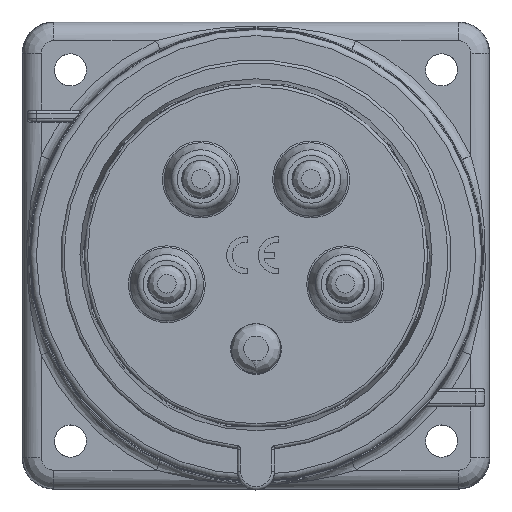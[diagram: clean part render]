
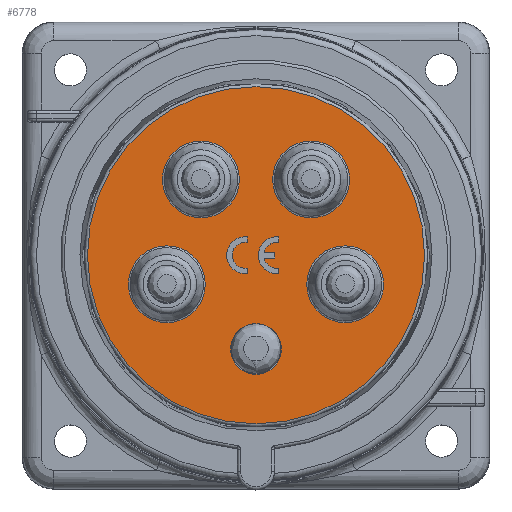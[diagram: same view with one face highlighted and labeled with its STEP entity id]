
A CAD part, top view. The second image highlights one B-rep face of the part: STEP entity #6778.
In plain terms, the highlighted planar face has unit normal (0, 0, 1).
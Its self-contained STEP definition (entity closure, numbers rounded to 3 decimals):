
#1308=FACE_BOUND('',#16651,.T.);
#1309=FACE_BOUND('',#16652,.T.);
#1310=FACE_BOUND('',#16653,.T.);
#1311=FACE_BOUND('',#16654,.T.);
#1312=FACE_BOUND('',#16655,.T.);
#1313=FACE_BOUND('',#16656,.T.);
#1314=FACE_BOUND('',#16657,.T.);
#1315=FACE_BOUND('',#16658,.T.);
#6778=ADVANCED_FACE('',(#1308,#1309,#1310,#1311,#1312,#1313,#1314,#1315),
#9088,.F.);
#9088=PLANE('',#75443);
#16651=EDGE_LOOP('',(#44448,#44449,#44450,#44451));
#16652=EDGE_LOOP('',(#44452,#44453,#44454,#44455,#44456,#44457,#44458,#44459));
#16653=EDGE_LOOP('',(#44460));
#16654=EDGE_LOOP('',(#44461));
#16655=EDGE_LOOP('',(#44462));
#16656=EDGE_LOOP('',(#44463));
#16657=EDGE_LOOP('',(#44464));
#16658=EDGE_LOOP('',(#44465));
#21707=LINE('',#165812,#25882);
#21708=LINE('',#165817,#25883);
#21709=LINE('',#165820,#25884);
#21710=LINE('',#165825,#25885);
#21711=LINE('',#165829,#25886);
#21712=LINE('',#165831,#25887);
#21713=LINE('',#165833,#25888);
#25882=VECTOR('',#88773,1.);
#25883=VECTOR('',#88776,1.);
#25884=VECTOR('',#88779,1.);
#25885=VECTOR('',#88782,1.);
#25886=VECTOR('',#88785,1.);
#25887=VECTOR('',#88786,1.);
#25888=VECTOR('',#88787,1.);
#28193=CIRCLE('',#75432,3.);
#28194=CIRCLE('',#75433,2.1);
#28195=CIRCLE('',#75434,3.);
#28196=CIRCLE('',#75435,2.1);
#28197=CIRCLE('',#75436,2.1);
#28198=CIRCLE('',#75437,6.21);
#28199=CIRCLE('',#75438,6.21);
#28200=CIRCLE('',#75439,6.21);
#28201=CIRCLE('',#75440,6.21);
#28202=CIRCLE('',#75441,4.1);
#28203=CIRCLE('',#75442,27.25);
#44448=ORIENTED_EDGE('',*,*,#64702,.F.);
#44449=ORIENTED_EDGE('',*,*,#64703,.F.);
#44450=ORIENTED_EDGE('',*,*,#64704,.F.);
#44451=ORIENTED_EDGE('',*,*,#64705,.F.);
#44452=ORIENTED_EDGE('',*,*,#64706,.F.);
#44453=ORIENTED_EDGE('',*,*,#64707,.F.);
#44454=ORIENTED_EDGE('',*,*,#64708,.F.);
#44455=ORIENTED_EDGE('',*,*,#64709,.F.);
#44456=ORIENTED_EDGE('',*,*,#64710,.F.);
#44457=ORIENTED_EDGE('',*,*,#64711,.F.);
#44458=ORIENTED_EDGE('',*,*,#64712,.F.);
#44459=ORIENTED_EDGE('',*,*,#64713,.F.);
#44460=ORIENTED_EDGE('',*,*,#64714,.F.);
#44461=ORIENTED_EDGE('',*,*,#64715,.F.);
#44462=ORIENTED_EDGE('',*,*,#64716,.T.);
#44463=ORIENTED_EDGE('',*,*,#64717,.T.);
#44464=ORIENTED_EDGE('',*,*,#64718,.T.);
#44465=ORIENTED_EDGE('',*,*,#64719,.T.);
#55290=VERTEX_POINT('',#165813);
#55291=VERTEX_POINT('',#165814);
#55292=VERTEX_POINT('',#165816);
#55293=VERTEX_POINT('',#165818);
#55294=VERTEX_POINT('',#165821);
#55295=VERTEX_POINT('',#165822);
#55296=VERTEX_POINT('',#165824);
#55297=VERTEX_POINT('',#165826);
#55298=VERTEX_POINT('',#165828);
#55299=VERTEX_POINT('',#165830);
#55300=VERTEX_POINT('',#165832);
#55301=VERTEX_POINT('',#165834);
#55302=VERTEX_POINT('',#165837);
#55303=VERTEX_POINT('',#165839);
#55304=VERTEX_POINT('',#165841);
#55305=VERTEX_POINT('',#165843);
#55306=VERTEX_POINT('',#165845);
#55307=VERTEX_POINT('',#165847);
#64702=EDGE_CURVE('',#55290,#55291,#21707,.T.);
#64703=EDGE_CURVE('',#55292,#55290,#28193,.T.);
#64704=EDGE_CURVE('',#55293,#55292,#21708,.T.);
#64705=EDGE_CURVE('',#55291,#55293,#28194,.T.);
#64706=EDGE_CURVE('',#55294,#55295,#21709,.T.);
#64707=EDGE_CURVE('',#55296,#55294,#28195,.T.);
#64708=EDGE_CURVE('',#55297,#55296,#21710,.T.);
#64709=EDGE_CURVE('',#55298,#55297,#28196,.T.);
#64710=EDGE_CURVE('',#55299,#55298,#21711,.T.);
#64711=EDGE_CURVE('',#55300,#55299,#21712,.T.);
#64712=EDGE_CURVE('',#55301,#55300,#21713,.T.);
#64713=EDGE_CURVE('',#55295,#55301,#28197,.T.);
#64714=EDGE_CURVE('',#55302,#55302,#28198,.T.);
#64715=EDGE_CURVE('',#55303,#55303,#28199,.T.);
#64716=EDGE_CURVE('',#55304,#55304,#28200,.T.);
#64717=EDGE_CURVE('',#55305,#55305,#28201,.T.);
#64718=EDGE_CURVE('',#55306,#55306,#28202,.T.);
#64719=EDGE_CURVE('',#55307,#55307,#28203,.T.);
#75432=AXIS2_PLACEMENT_3D('',#165815,#88774,#88775);
#75433=AXIS2_PLACEMENT_3D('',#165819,#88777,#88778);
#75434=AXIS2_PLACEMENT_3D('',#165823,#88780,#88781);
#75435=AXIS2_PLACEMENT_3D('',#165827,#88783,#88784);
#75436=AXIS2_PLACEMENT_3D('',#165835,#88788,#88789);
#75437=AXIS2_PLACEMENT_3D('',#165836,#88790,#88791);
#75438=AXIS2_PLACEMENT_3D('',#165838,#88792,#88793);
#75439=AXIS2_PLACEMENT_3D('',#165840,#88794,#88795);
#75440=AXIS2_PLACEMENT_3D('',#165842,#88796,#88797);
#75441=AXIS2_PLACEMENT_3D('',#165844,#88798,#88799);
#75442=AXIS2_PLACEMENT_3D('',#165846,#88800,#88801);
#75443=AXIS2_PLACEMENT_3D('',#165848,#88802,#88803);
#88773=DIRECTION('',(0.,1.,0.));
#88774=DIRECTION('',(0.,0.,1.));
#88775=DIRECTION('',(1.,0.,0.));
#88776=DIRECTION('',(0.,1.,0.));
#88777=DIRECTION('',(0.,0.,-1.));
#88778=DIRECTION('',(1.,0.,0.));
#88779=DIRECTION('',(0.,1.,0.));
#88780=DIRECTION('',(0.,0.,1.));
#88781=DIRECTION('',(1.,0.,0.));
#88782=DIRECTION('',(0.,1.,0.));
#88783=DIRECTION('',(0.,0.,-1.));
#88784=DIRECTION('',(1.,0.,0.));
#88785=DIRECTION('',(-1.,0.,0.));
#88786=DIRECTION('',(0.,1.,0.));
#88787=DIRECTION('',(1.,0.,0.));
#88788=DIRECTION('',(0.,0.,-1.));
#88789=DIRECTION('',(1.,0.,0.));
#88790=DIRECTION('',(0.,0.,1.));
#88791=DIRECTION('',(-1.,0.,0.));
#88792=DIRECTION('',(0.,0.,1.));
#88793=DIRECTION('',(-1.,0.,0.));
#88794=DIRECTION('',(0.,0.,-1.));
#88795=DIRECTION('',(-1.,0.,0.));
#88796=DIRECTION('',(0.,0.,-1.));
#88797=DIRECTION('',(-1.,0.,0.));
#88798=DIRECTION('',(0.,0.,-1.));
#88799=DIRECTION('',(-1.,0.,0.));
#88800=DIRECTION('',(0.,0.,1.));
#88801=DIRECTION('',(-1.,0.,0.));
#88802=DIRECTION('',(0.,0.,-1.));
#88803=DIRECTION('',(-1.,0.,0.));
#165812=CARTESIAN_POINT('',(-1.43,-2.985,18.7));
#165813=CARTESIAN_POINT('',(-1.43,-2.985,18.7));
#165814=CARTESIAN_POINT('',(-1.43,-2.078,18.7));
#165815=CARTESIAN_POINT('',(-1.732,0.,18.7));
#165816=CARTESIAN_POINT('',(-1.43,2.985,18.7));
#165817=CARTESIAN_POINT('',(-1.43,2.078,18.7));
#165818=CARTESIAN_POINT('',(-1.43,2.078,18.7));
#165819=CARTESIAN_POINT('',(-1.732,0.,18.7));
#165820=CARTESIAN_POINT('',(3.67,-2.985,18.7));
#165821=CARTESIAN_POINT('',(3.67,-2.985,18.7));
#165822=CARTESIAN_POINT('',(3.67,-2.078,18.7));
#165823=CARTESIAN_POINT('',(3.367,0.,18.7));
#165824=CARTESIAN_POINT('',(3.67,2.985,18.7));
#165825=CARTESIAN_POINT('',(3.67,2.078,18.7));
#165826=CARTESIAN_POINT('',(3.67,2.078,18.7));
#165827=CARTESIAN_POINT('',(3.367,0.,18.7));
#165828=CARTESIAN_POINT('',(1.316,0.45,18.7));
#165829=CARTESIAN_POINT('',(3.067,0.45,18.7));
#165830=CARTESIAN_POINT('',(3.067,0.45,18.7));
#165831=CARTESIAN_POINT('',(3.067,-0.45,18.7));
#165832=CARTESIAN_POINT('',(3.067,-0.45,18.7));
#165833=CARTESIAN_POINT('',(1.316,-0.45,18.7));
#165834=CARTESIAN_POINT('',(1.316,-0.45,18.7));
#165835=CARTESIAN_POINT('',(3.367,0.,18.7));
#165836=CARTESIAN_POINT('',(8.905,12.257,18.7));
#165837=CARTESIAN_POINT('',(2.695,12.257,18.7));
#165838=CARTESIAN_POINT('',(14.408,-4.682,18.7));
#165839=CARTESIAN_POINT('',(8.198,-4.682,18.7));
#165840=CARTESIAN_POINT('',(-8.905,12.257,18.7));
#165841=CARTESIAN_POINT('',(-15.115,12.257,18.7));
#165842=CARTESIAN_POINT('',(-14.409,-4.682,18.7));
#165843=CARTESIAN_POINT('',(-20.619,-4.682,18.7));
#165844=CARTESIAN_POINT('',(0.,-15.15,18.7));
#165845=CARTESIAN_POINT('',(-4.1,-15.15,18.7));
#165846=CARTESIAN_POINT('',(0.,0.,18.7));
#165847=CARTESIAN_POINT('',(-27.25,0.,18.7));
#165848=CARTESIAN_POINT('',(0.,0.,18.7));
